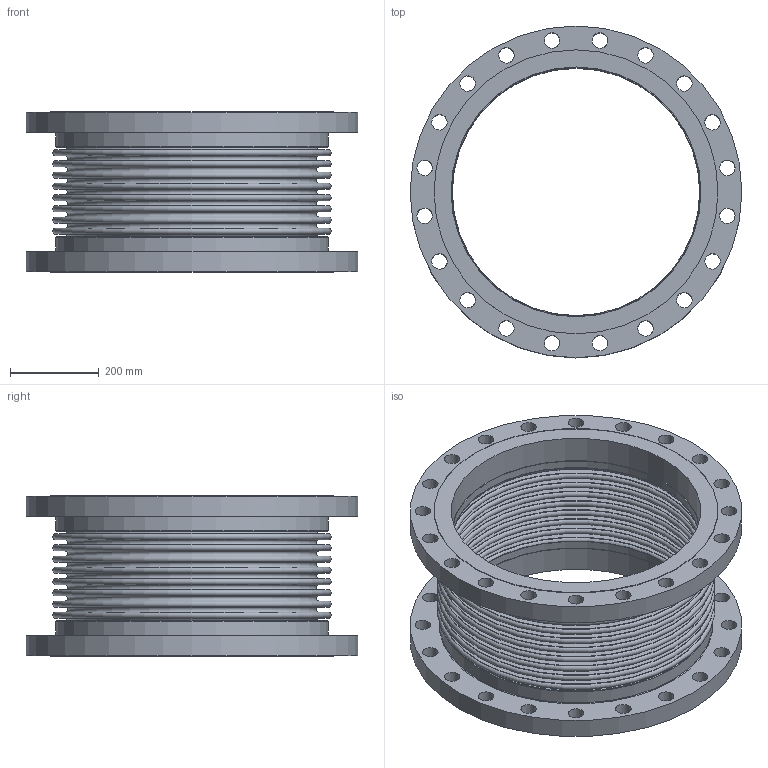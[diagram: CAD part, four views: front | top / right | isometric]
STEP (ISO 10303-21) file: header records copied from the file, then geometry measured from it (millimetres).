
FILE_DESCRIPTION(/* description */ ('EXPANSION JOINT,SINGLE, FLANGED ENDS,22 INCH','CAx-IF Rec.Pracs.---Representation and Presentation of Product Manufacturing Information (PMI)---4.0---2014-10-13'),/* implementation_level */ '2;1');
FILE_NAME(/* name */ 'US-22-8-85S-FLANGED ENDS.stp',/* time_stamp */ '2026-07-31T18:01:12-05:00',/* author */ ('Guadalupe'),/* organization */ (''),/* preprocessor_version */ 'ST-DEVELOPER v20.1',/* originating_system */ 'Autodesk Inventor 2026',/* authorisation */ '');
FILE_SCHEMA (('FEATURE_BASED_PROCESS_PLANNING','AP242_MANAGED_MODEL_BASED_3D_ENGINEERING_MIM_LF { 1 0 10303 442 2 1 4 }'));
Length unit declared in the file: inch
Products named in the file (3): 22-85S; 22-85S-02; 22-85S-01
Assembly tree (3 placements, depth 2):
  22-85S
    22-85S-02  x2
    22-85S-01
Bounding box: 749.3 x 749.3 x 362.2 mm (x, y, z)
Volume: 20256896.8 mm3; surface area: 4095059.8 mm2
Topology: 5 solids, 5 shells, 136 faces, 270 edges, 180 vertices
Faces by surface type: cylinder 52, plane 46, torus 38
Full cylindrical faces by diameter (mm): 34.925 x40, 558.8 x2, 561.238 x2, 564.388 x2, 615.95 x2, 641.35 x2, 749.3 x2
Entity records: 3026 total; most frequent: DIRECTION 606, CARTESIAN_POINT 449, ORIENTED_EDGE 384, AXIS2_PLACEMENT_3D 289, EDGE_CURVE 192, EDGE_LOOP 188, CIRCLE 164, VERTEX_POINT 128
